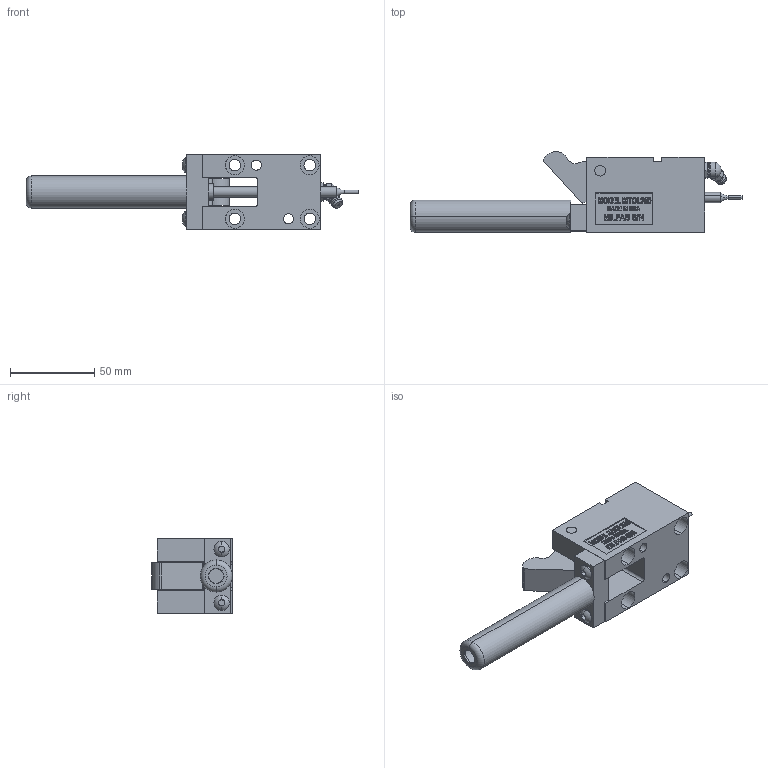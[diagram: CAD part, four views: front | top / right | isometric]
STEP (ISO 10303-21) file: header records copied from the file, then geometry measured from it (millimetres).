
FILE_DESCRIPTION (( 'STEP AP214' ), '1' );
FILE_NAME ('MTOL25045-O.STEP', '2014-01-08T20:04:32', ( 'user' ), ( '' ), 'SwSTEP 2.0', 'SolidWorks 2009', '' );
FILE_SCHEMA (( 'AUTOMOTIVE_DESIGN' ));
Length unit declared in the file: inch
Products named in the file (10): MTOL25045-O; MTOL250-BODY; 10-SCREW; M-O-250-POINT; 250 PIVOT PIN; 250-OFFSET TRIGGER; GREASE ZERK; 250-O-STRAP; MOL250-PUNCH; OL250-CAGE
Assembly tree (10 placements, depth 2):
  MTOL25045-O
    10-SCREW  x2
    250 PIVOT PIN
    250-O-STRAP
    MTOL250-BODY
    GREASE ZERK
    M-O-250-POINT
    250-OFFSET TRIGGER
    OL250-CAGE
    MOL250-PUNCH
Bounding box: 196.85 x 47.85 x 44.45 mm (x, y, z)
Volume: 121999 mm3; surface area: 47844.6 mm2
Topology: 10 solids, 10 shells, 602 faces, 1555 edges, 1022 vertices
Faces by surface type: plane 359, bspline 97, cylinder 94, cone 26, torus 26
Entity records: 23762 total; most frequent: CARTESIAN_POINT 9683, ORIENTED_EDGE 3026, DIRECTION 2455, EDGE_CURVE 1513, VECTOR 1009, LINE 1009, VERTEX_POINT 998, AXIS2_PLACEMENT_3D 723
